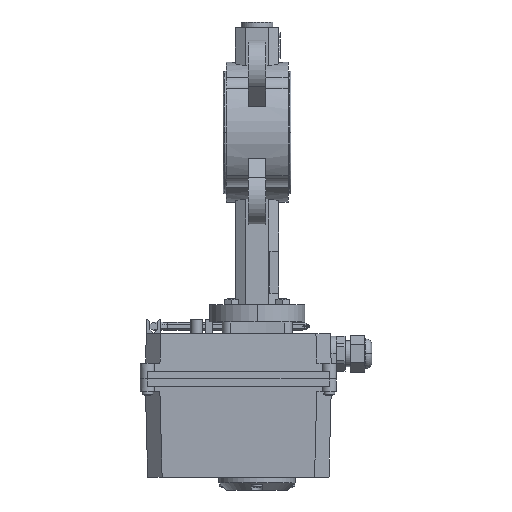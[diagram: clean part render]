
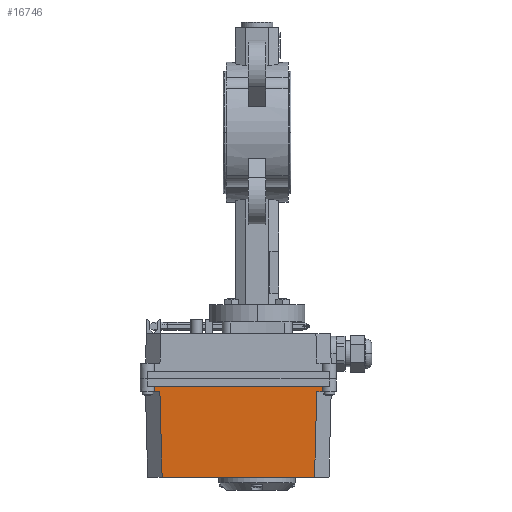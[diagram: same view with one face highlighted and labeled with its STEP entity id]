
A CAD part, left-side view. The second image highlights one B-rep face of the part: STEP entity #16746.
In plain terms, the highlighted planar face has unit normal (-1, 0, -0.026) as drawn and (0, 0.026, -1) by its records, which use the part's own axes.
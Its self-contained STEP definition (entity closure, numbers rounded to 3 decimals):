
#15923=CARTESIAN_POINT('',(58.199,9.,-42.895));
#15924=CARTESIAN_POINT('',(58.209,7.667,
-42.93));
#15925=CARTESIAN_POINT('',(58.219,6.333,
-42.965));
#15926=CARTESIAN_POINT('',(58.23,5.,-43.));
#15938=DIRECTION('',(1.,0.,0.));
#15939=VECTOR('',#15938,116.461);
#15940=CARTESIAN_POINT('',(-58.23,5.,-43.));
#15941=LINE('',#15940,#15939);
#15942=DIRECTION('',(-0.026,0.999,0.026));
#15943=VECTOR('',#15942,59.04);
#15944=CARTESIAN_POINT('',(54.392,9.,-42.895));
#15945=LINE('',#15944,#15943);
#15946=DIRECTION('',(0.026,0.999,0.026));
#15947=VECTOR('',#15946,59.04);
#15948=CARTESIAN_POINT('',(-54.392,9.,-42.895));
#15949=LINE('',#15948,#15947);
#16076=DIRECTION('',(1.,0.,0.));
#16077=VECTOR('',#16076,3.807);
#16078=CARTESIAN_POINT('',(54.392,9.,-42.895));
#16079=LINE('',#16078,#16077);
#16080=DIRECTION('',(1.,0.,0.));
#16081=VECTOR('',#16080,3.807);
#16082=CARTESIAN_POINT('',(-58.199,9.,-42.895));
#16083=LINE('',#16082,#16081);
#16105=CARTESIAN_POINT('',(-58.23,5.,-43.));
#16106=CARTESIAN_POINT('',(-58.219,6.333,
-42.965));
#16107=CARTESIAN_POINT('',(-58.209,7.667,
-42.93));
#16108=CARTESIAN_POINT('',(-58.199,9.,-42.895));
#16173=DIRECTION('',(-1.,0.,0.));
#16174=VECTOR('',#16173,105.694);
#16175=CARTESIAN_POINT('',(52.847,68.,-41.35));
#16176=LINE('',#16175,#16174);
#16630=CARTESIAN_POINT('',(52.847,68.,-41.35));
#16632=VERTEX_POINT('',#16630);
#16633=CARTESIAN_POINT('',(-52.847,68.,-41.35));
#16635=VERTEX_POINT('',#16633);
#16645=VERTEX_POINT('',#15923);
#16646=VERTEX_POINT('',#15926);
#16659=VERTEX_POINT('',#16105);
#16660=VERTEX_POINT('',#16108);
#16662=CARTESIAN_POINT('',(54.392,9.,-42.895));
#16664=VERTEX_POINT('',#16662);
#16665=CARTESIAN_POINT('',(-54.392,9.,-42.895));
#16667=VERTEX_POINT('',#16665);
#16724=CARTESIAN_POINT('',(0.,36.5,-42.175));
#16725=DIRECTION('',(0.,0.026,-1.));
#16726=DIRECTION('',(0.,-1.,-0.026));
#16727=AXIS2_PLACEMENT_3D('',#16724,#16725,#16726);
#16728=PLANE('',#16727);
#16730=ORIENTED_EDGE('',*,*,#16729,.T.);
#16731=ORIENTED_EDGE('',*,*,#16706,.F.);
#16733=ORIENTED_EDGE('',*,*,#16732,.F.);
#16735=ORIENTED_EDGE('',*,*,#16734,.T.);
#16737=ORIENTED_EDGE('',*,*,#16736,.T.);
#16739=ORIENTED_EDGE('',*,*,#16738,.F.);
#16741=ORIENTED_EDGE('',*,*,#16740,.F.);
#16743=ORIENTED_EDGE('',*,*,#16742,.F.);
#16744=EDGE_LOOP('',(#16730,#16731,#16733,#16735,#16737,#16739,#16741,#16743));
#16745=FACE_OUTER_BOUND('',#16744,.F.);
#16746=ADVANCED_FACE('',(#16745),#16728,.T.);
#15927=B_SPLINE_CURVE_WITH_KNOTS('',3,(#15923,#15924,#15925,#15926),
.UNSPECIFIED.,.F.,.F.,(4,4),(0.,1.),.UNSPECIFIED.);
#16109=B_SPLINE_CURVE_WITH_KNOTS('',3,(#16105,#16106,#16107,#16108),
.UNSPECIFIED.,.F.,.F.,(4,4),(0.,1.),.UNSPECIFIED.);
#16706=EDGE_CURVE('',#16645,#16646,#15927,.T.);
#16729=EDGE_CURVE('',#16659,#16646,#15941,.T.);
#16732=EDGE_CURVE('',#16664,#16645,#16079,.T.);
#16734=EDGE_CURVE('',#16664,#16632,#15945,.T.);
#16736=EDGE_CURVE('',#16632,#16635,#16176,.T.);
#16738=EDGE_CURVE('',#16667,#16635,#15949,.T.);
#16740=EDGE_CURVE('',#16660,#16667,#16083,.T.);
#16742=EDGE_CURVE('',#16659,#16660,#16109,.T.);
